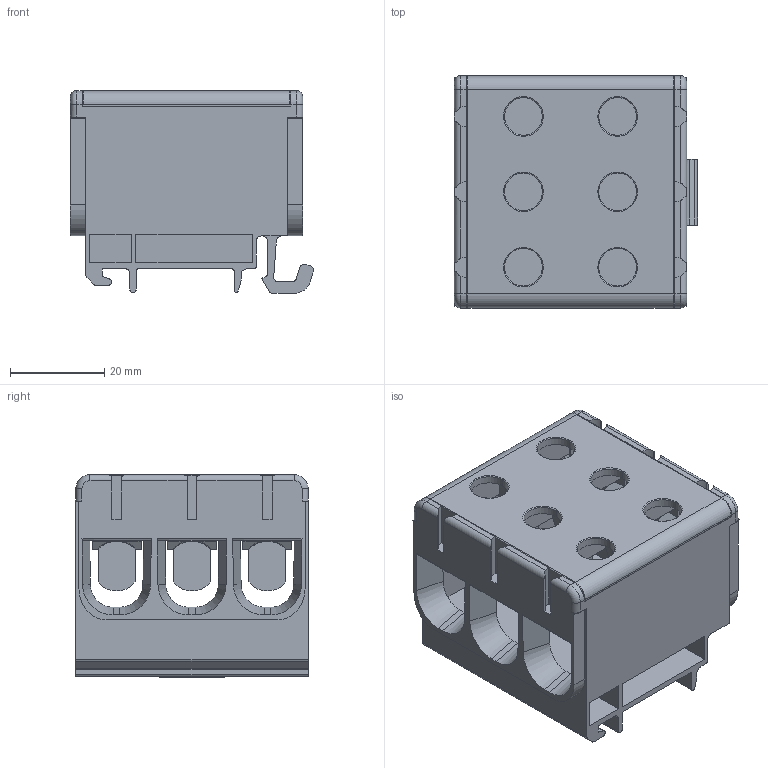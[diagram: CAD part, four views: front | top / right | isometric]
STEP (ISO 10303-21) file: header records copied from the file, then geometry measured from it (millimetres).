
FILE_DESCRIPTION((''),'2;1');
FILE_NAME('KE71_ASM','2016-06-04T',('Administrator'),(''),'PRO/ENGINEER BY PARAMETRIC TECHNOLOGY CORPORATION, 2009360','PRO/ENGINEER BY PARAMETRIC TECHNOLOGY CORPORATION, 2009360','');
FILE_SCHEMA(('CONFIG_CONTROL_DESIGN'));
Length unit declared in the file: millimetre
Products named in the file (3): KE71; KE71-GAI; KE71_ASM
Assembly tree (2 placements, depth 2):
  KE71_ASM
    KE71
    KE71-GAI
Bounding box: 51.6 x 49.3 x 43 mm (x, y, z)
Volume: 23715.1 mm3; surface area: 33629.4 mm2
Topology: 2 solids, 2 shells, 489 faces, 1389 edges, 902 vertices
Faces by surface type: plane 319, cylinder 112, bspline 36, torus 20, extrusion 2
Entity records: 17666 total; most frequent: CARTESIAN_POINT 5066, ORIENTED_EDGE 2778, DIRECTION 2393, EDGE_CURVE 1389, VECTOR 989, LINE 987, VERTEX_POINT 902, AXIS2_PLACEMENT_3D 702
